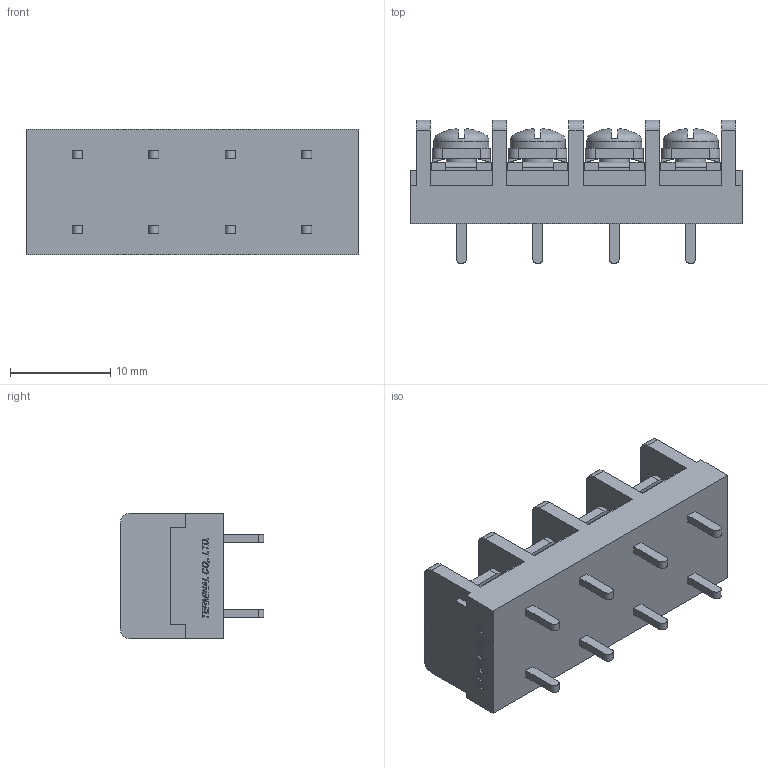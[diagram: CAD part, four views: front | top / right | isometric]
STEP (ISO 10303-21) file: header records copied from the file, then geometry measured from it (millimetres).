
FILE_DESCRIPTION(/* description */ ('Alibre Inc.'),/* implementation_level */ '2;1');
FILE_NAME(/* name */ 'export0',/* time_stamp */ '2015-10-26T18:20:16+09:00',/* author */ (''),/* organization */ (''),/* preprocessor_version */ 'ST-DEVELOPER v14',/* originating_system */ 'Alibre',/* authorisation */ '');
FILE_SCHEMA (('CONFIG_CONTROL_DESIGN'));
Length unit declared in the file: centimetre
Products named in the file (1): ID_1
Bounding box: 33.1 x 14.3 x 12.5 mm (x, y, z)
Volume: 3015.8 mm3; surface area: 2859.1 mm2
Topology: 1 solids, 1 shells, 790 faces, 2144 edges, 1416 vertices
Faces by surface type: plane 604, bspline 104, cylinder 50, cone 16, torus 8, sphere 8
Full cylindrical faces by diameter (mm): 3 x4, 5.5 x4
Entity records: 23749 total; most frequent: CARTESIAN_POINT 5399, ORIENTED_EDGE 4240, DIRECTION 2746, EDGE_CURVE 2120, VECTOR 1572, LINE 1572, VERTEX_POINT 1408, AXIS2_PLACEMENT_3D 867
